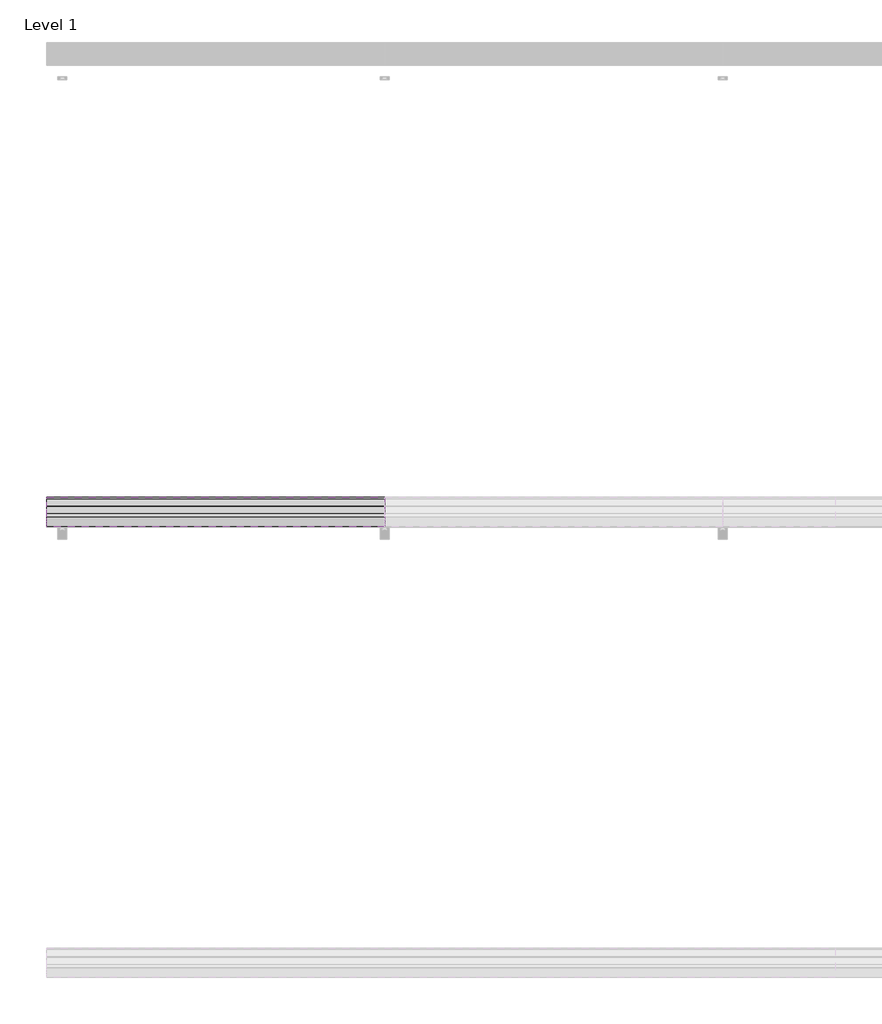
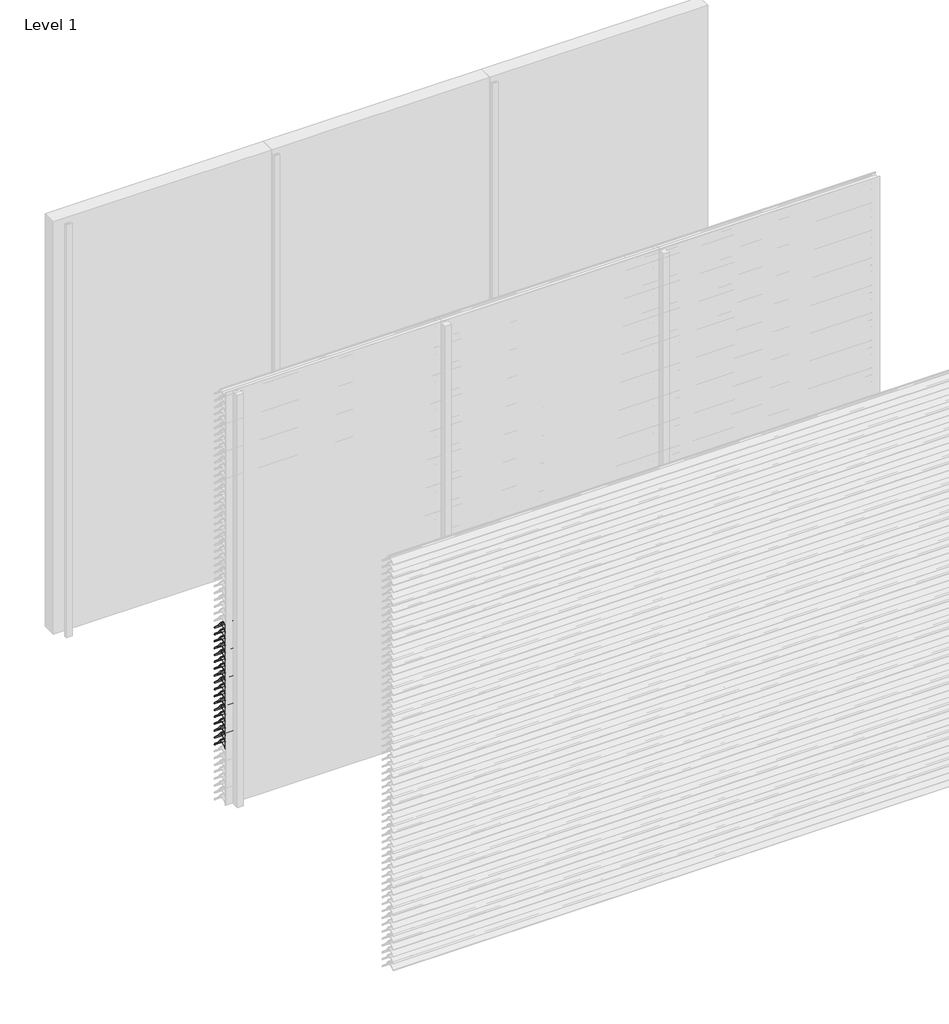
# One storey, part 77 of 173: 18 proxies.
"""IFC4 building model written with IfcOpenShell, lengths in millimetres."""

from ifc_helpers import new_model, si_unit, point, frame, frame_2d, origin, place, context, project, spatial, polyline, circle_curve, trimmed, segment, composite_curve, outline, extrude, element, save

model = new_model("IFC4")

# Units and contexts
model_context = context("Model", 3, world=origin())
ifc_project = project(units=[si_unit("LENGTHUNIT", "METRE", prefix="MILLI")], contexts=[model_context])

# Site, building, storey
site = spatial("IfcSite", under=ifc_project)
building = spatial("IfcBuilding", under=site)
storey = spatial("IfcBuildingStorey", under=building, Name="Level 1", Elevation=0.0)

# Proxies
placement = place(None, origin())
element("IfcBuildingElementProxy", 1, Name="Wall Sweeps", at=placement, inside=storey, context=model_context, shape_type="SweptSolid", body=[
    extrude(outline(composite_curve([segment(polyline([(-29998.0, 1259.1474905), (-29998.0, 1261.6227417)]), True, "CONTINUOUS"), segment(trimmed(circle_curve(frame_2d((-29951.2682172, 1216.2200208)), 65.1557103), [point((-29998.0, 1261.6227417))], [point((-29954.4014323, 1281.3003524))], False, "CARTESIAN"), True, "CONTINUOUS"), segment(polyline([(-29954.4014323, 1281.3003524), (-29934.8315836, 1281.3003524)]), True, "CONTINUOUS"), segment(trimmed(circle_curve(frame_2d((-29732.7329489, 1428.5533172)), 250.0545817), [point((-29934.8315836, 1281.3003524))], [point((-29941.4452143, 1290.8344583))], False, "CARTESIAN"), True, "CONTINUOUS"), segment(trimmed(circle_curve(frame_2d((-29953.2981792, 1285.1737835)), 13.1352966), [point((-29941.4452143, 1290.8344583))], [point((-29953.8171475, 1298.298824))], True, "CARTESIAN"), True, "CONTINUOUS"), segment(polyline([(-29953.8171475, 1298.298824), (-29953.8171475, 1300.0)]), True, "CONTINUOUS"), segment(trimmed(circle_curve(frame_2d((-29953.2981792, 1285.1737835)), 14.8352966), [point((-29953.8171475, 1300.0))], [point((-29939.9637661, 1291.6760487))], False, "CARTESIAN"), True, "CONTINUOUS"), segment(trimmed(circle_curve(frame_2d((-29732.7329489, 1428.5533172)), 248.3545817), [point((-29939.9637661, 1291.6760487))], [point((-29873.8787895, 1224.2059416))], True, "CARTESIAN"), True, "CONTINUOUS"), segment(trimmed(circle_curve(frame_2d((-29883.8147537, 1211.6649442)), 16.0), [point((-29873.8787895, 1224.2059416))], [point((-29867.8648347, 1210.4))], False, "CARTESIAN"), True, "CONTINUOUS"), segment(polyline([(-29867.8648347, 1210.4), (-29869.6712069, 1210.4)]), True, "CONTINUOUS"), segment(trimmed(circle_curve(frame_2d((-29883.8147537, 1211.6649442)), 14.2), [point((-29869.6712069, 1210.4))], [point((-29874.9518628, 1222.7594998))], True, "CARTESIAN"), True, "CONTINUOUS"), segment(trimmed(circle_curve(frame_2d((-29732.7329489, 1428.5533172)), 250.1545817), [point((-29874.9518628, 1222.7594998))], [point((-29933.7064024, 1279.6003524))], False, "CARTESIAN"), True, "CONTINUOUS"), segment(polyline([(-29933.7064024, 1279.6003524), (-29954.3602632, 1279.6003524)]), True, "CONTINUOUS"), segment(trimmed(circle_curve(frame_2d((-29951.2682172, 1216.2200208)), 63.4557103), [point((-29954.3602632, 1279.6003524))], [point((-29998.0, 1259.1474905))], True, "CARTESIAN"), True, "CONTINUOUS")], self_intersect=False)), frame((0.0, 0.0, 0.0), z_axis=(1.0, 0.0, 0.0), x_axis=(0.0, 1.0, 0.0)), (0.0, 0.0, 1.0), 1500.0),
])
element("IfcBuildingElementProxy", 2, Name="Wall Sweeps", at=placement, inside=storey, context=model_context, shape_type="SweptSolid", body=[
    extrude(outline(composite_curve([segment(polyline([(-29998.0, 1209.1474905), (-29998.0, 1211.6227417)]), True, "CONTINUOUS"), segment(trimmed(circle_curve(frame_2d((-29951.2682172, 1166.2200208)), 65.1557103), [point((-29998.0, 1211.6227417))], [point((-29954.4014323, 1231.3003524))], False, "CARTESIAN"), True, "CONTINUOUS"), segment(polyline([(-29954.4014323, 1231.3003524), (-29934.8315836, 1231.3003524)]), True, "CONTINUOUS"), segment(trimmed(circle_curve(frame_2d((-29732.7329489, 1378.5533172)), 250.0545817), [point((-29934.8315836, 1231.3003524))], [point((-29941.4452143, 1240.8344583))], False, "CARTESIAN"), True, "CONTINUOUS"), segment(trimmed(circle_curve(frame_2d((-29953.2981792, 1235.1737835)), 13.1352966), [point((-29941.4452143, 1240.8344583))], [point((-29953.8171475, 1248.298824))], True, "CARTESIAN"), True, "CONTINUOUS"), segment(polyline([(-29953.8171475, 1248.298824), (-29953.8171475, 1250.0)]), True, "CONTINUOUS"), segment(trimmed(circle_curve(frame_2d((-29953.2981792, 1235.1737835)), 14.8352966), [point((-29953.8171475, 1250.0))], [point((-29939.9637661, 1241.6760487))], False, "CARTESIAN"), True, "CONTINUOUS"), segment(trimmed(circle_curve(frame_2d((-29732.7329489, 1378.5533172)), 248.3545817), [point((-29939.9637661, 1241.6760487))], [point((-29873.8787895, 1174.2059416))], True, "CARTESIAN"), True, "CONTINUOUS"), segment(trimmed(circle_curve(frame_2d((-29883.8147537, 1161.6649442)), 16.0), [point((-29873.8787895, 1174.2059416))], [point((-29867.8648347, 1160.4))], False, "CARTESIAN"), True, "CONTINUOUS"), segment(polyline([(-29867.8648347, 1160.4), (-29869.6712069, 1160.4)]), True, "CONTINUOUS"), segment(trimmed(circle_curve(frame_2d((-29883.8147537, 1161.6649442)), 14.2), [point((-29869.6712069, 1160.4))], [point((-29874.9518628, 1172.7594998))], True, "CARTESIAN"), True, "CONTINUOUS"), segment(trimmed(circle_curve(frame_2d((-29732.7329489, 1378.5533172)), 250.1545817), [point((-29874.9518628, 1172.7594998))], [point((-29933.7064024, 1229.6003524))], False, "CARTESIAN"), True, "CONTINUOUS"), segment(polyline([(-29933.7064024, 1229.6003524), (-29954.3602632, 1229.6003524)]), True, "CONTINUOUS"), segment(trimmed(circle_curve(frame_2d((-29951.2682172, 1166.2200208)), 63.4557103), [point((-29954.3602632, 1229.6003524))], [point((-29998.0, 1209.1474905))], True, "CARTESIAN"), True, "CONTINUOUS")], self_intersect=False)), frame((0.0, 0.0, 0.0), z_axis=(1.0, 0.0, 0.0), x_axis=(0.0, 1.0, 0.0)), (0.0, 0.0, 1.0), 1500.0),
])
element("IfcBuildingElementProxy", 3, Name="Wall Sweeps", at=placement, inside=storey, context=model_context, shape_type="SweptSolid", body=[
    extrude(outline(composite_curve([segment(polyline([(-29998.0, 1159.1474905), (-29998.0, 1161.6227417)]), True, "CONTINUOUS"), segment(trimmed(circle_curve(frame_2d((-29951.2682172, 1116.2200208)), 65.1557103), [point((-29998.0, 1161.6227417))], [point((-29954.4014323, 1181.3003524))], False, "CARTESIAN"), True, "CONTINUOUS"), segment(polyline([(-29954.4014323, 1181.3003524), (-29934.8315836, 1181.3003524)]), True, "CONTINUOUS"), segment(trimmed(circle_curve(frame_2d((-29732.7329489, 1328.5533172)), 250.0545817), [point((-29934.8315836, 1181.3003524))], [point((-29941.4452143, 1190.8344583))], False, "CARTESIAN"), True, "CONTINUOUS"), segment(trimmed(circle_curve(frame_2d((-29953.2981792, 1185.1737835)), 13.1352966), [point((-29941.4452143, 1190.8344583))], [point((-29953.8171475, 1198.298824))], True, "CARTESIAN"), True, "CONTINUOUS"), segment(polyline([(-29953.8171475, 1198.298824), (-29953.8171475, 1200.0)]), True, "CONTINUOUS"), segment(trimmed(circle_curve(frame_2d((-29953.2981792, 1185.1737835)), 14.8352966), [point((-29953.8171475, 1200.0))], [point((-29939.9637661, 1191.6760487))], False, "CARTESIAN"), True, "CONTINUOUS"), segment(trimmed(circle_curve(frame_2d((-29732.7329489, 1328.5533172)), 248.3545817), [point((-29939.9637661, 1191.6760487))], [point((-29873.8787895, 1124.2059416))], True, "CARTESIAN"), True, "CONTINUOUS"), segment(trimmed(circle_curve(frame_2d((-29883.8147537, 1111.6649442)), 16.0), [point((-29873.8787895, 1124.2059416))], [point((-29867.8648347, 1110.4))], False, "CARTESIAN"), True, "CONTINUOUS"), segment(polyline([(-29867.8648347, 1110.4), (-29869.6712069, 1110.4)]), True, "CONTINUOUS"), segment(trimmed(circle_curve(frame_2d((-29883.8147537, 1111.6649442)), 14.2), [point((-29869.6712069, 1110.4))], [point((-29874.9518628, 1122.7594998))], True, "CARTESIAN"), True, "CONTINUOUS"), segment(trimmed(circle_curve(frame_2d((-29732.7329489, 1328.5533172)), 250.1545817), [point((-29874.9518628, 1122.7594998))], [point((-29933.7064024, 1179.6003524))], False, "CARTESIAN"), True, "CONTINUOUS"), segment(polyline([(-29933.7064024, 1179.6003524), (-29954.3602632, 1179.6003524)]), True, "CONTINUOUS"), segment(trimmed(circle_curve(frame_2d((-29951.2682172, 1116.2200208)), 63.4557103), [point((-29954.3602632, 1179.6003524))], [point((-29998.0, 1159.1474905))], True, "CARTESIAN"), True, "CONTINUOUS")], self_intersect=False)), frame((0.0, 0.0, 0.0), z_axis=(1.0, 0.0, 0.0), x_axis=(0.0, 1.0, 0.0)), (0.0, 0.0, 1.0), 1500.0),
])
element("IfcBuildingElementProxy", 4, Name="Wall Sweeps", at=placement, inside=storey, context=model_context, shape_type="SweptSolid", body=[
    extrude(outline(composite_curve([segment(polyline([(-29998.0, 1109.1474905), (-29998.0, 1111.6227417)]), True, "CONTINUOUS"), segment(trimmed(circle_curve(frame_2d((-29951.2682172, 1066.2200208)), 65.1557103), [point((-29998.0, 1111.6227417))], [point((-29954.4014323, 1131.3003524))], False, "CARTESIAN"), True, "CONTINUOUS"), segment(polyline([(-29954.4014323, 1131.3003524), (-29934.8315836, 1131.3003524)]), True, "CONTINUOUS"), segment(trimmed(circle_curve(frame_2d((-29732.7329489, 1278.5533172)), 250.0545817), [point((-29934.8315836, 1131.3003524))], [point((-29941.4452143, 1140.8344583))], False, "CARTESIAN"), True, "CONTINUOUS"), segment(trimmed(circle_curve(frame_2d((-29953.2981792, 1135.1737835)), 13.1352966), [point((-29941.4452143, 1140.8344583))], [point((-29953.8171475, 1148.298824))], True, "CARTESIAN"), True, "CONTINUOUS"), segment(polyline([(-29953.8171475, 1148.298824), (-29953.8171475, 1150.0)]), True, "CONTINUOUS"), segment(trimmed(circle_curve(frame_2d((-29953.2981792, 1135.1737835)), 14.8352966), [point((-29953.8171475, 1150.0))], [point((-29939.9637661, 1141.6760487))], False, "CARTESIAN"), True, "CONTINUOUS"), segment(trimmed(circle_curve(frame_2d((-29732.7329489, 1278.5533172)), 248.3545817), [point((-29939.9637661, 1141.6760487))], [point((-29873.8787895, 1074.2059416))], True, "CARTESIAN"), True, "CONTINUOUS"), segment(trimmed(circle_curve(frame_2d((-29883.8147537, 1061.6649442)), 16.0), [point((-29873.8787895, 1074.2059416))], [point((-29867.8648347, 1060.4))], False, "CARTESIAN"), True, "CONTINUOUS"), segment(polyline([(-29867.8648347, 1060.4), (-29869.6712069, 1060.4)]), True, "CONTINUOUS"), segment(trimmed(circle_curve(frame_2d((-29883.8147537, 1061.6649442)), 14.2), [point((-29869.6712069, 1060.4))], [point((-29874.9518628, 1072.7594998))], True, "CARTESIAN"), True, "CONTINUOUS"), segment(trimmed(circle_curve(frame_2d((-29732.7329489, 1278.5533172)), 250.1545817), [point((-29874.9518628, 1072.7594998))], [point((-29933.7064024, 1129.6003524))], False, "CARTESIAN"), True, "CONTINUOUS"), segment(polyline([(-29933.7064024, 1129.6003524), (-29954.3602632, 1129.6003524)]), True, "CONTINUOUS"), segment(trimmed(circle_curve(frame_2d((-29951.2682172, 1066.2200208)), 63.4557103), [point((-29954.3602632, 1129.6003524))], [point((-29998.0, 1109.1474905))], True, "CARTESIAN"), True, "CONTINUOUS")], self_intersect=False)), frame((0.0, 0.0, 0.0), z_axis=(1.0, 0.0, 0.0), x_axis=(0.0, 1.0, 0.0)), (0.0, 0.0, 1.0), 1500.0),
])
element("IfcBuildingElementProxy", 5, Name="Wall Sweeps", at=placement, inside=storey, context=model_context, shape_type="SweptSolid", body=[
    extrude(outline(composite_curve([segment(polyline([(-29998.0, 1059.1474905), (-29998.0, 1061.6227417)]), True, "CONTINUOUS"), segment(trimmed(circle_curve(frame_2d((-29951.2682172, 1016.2200208)), 65.1557103), [point((-29998.0, 1061.6227417))], [point((-29954.4014323, 1081.3003524))], False, "CARTESIAN"), True, "CONTINUOUS"), segment(polyline([(-29954.4014323, 1081.3003524), (-29934.8315836, 1081.3003524)]), True, "CONTINUOUS"), segment(trimmed(circle_curve(frame_2d((-29732.7329489, 1228.5533172)), 250.0545817), [point((-29934.8315836, 1081.3003524))], [point((-29941.4452143, 1090.8344583))], False, "CARTESIAN"), True, "CONTINUOUS"), segment(trimmed(circle_curve(frame_2d((-29953.2981792, 1085.1737835)), 13.1352966), [point((-29941.4452143, 1090.8344583))], [point((-29953.8171475, 1098.298824))], True, "CARTESIAN"), True, "CONTINUOUS"), segment(polyline([(-29953.8171475, 1098.298824), (-29953.8171475, 1100.0)]), True, "CONTINUOUS"), segment(trimmed(circle_curve(frame_2d((-29953.2981792, 1085.1737835)), 14.8352966), [point((-29953.8171475, 1100.0))], [point((-29939.9637661, 1091.6760487))], False, "CARTESIAN"), True, "CONTINUOUS"), segment(trimmed(circle_curve(frame_2d((-29732.7329489, 1228.5533172)), 248.3545817), [point((-29939.9637661, 1091.6760487))], [point((-29873.8787895, 1024.2059416))], True, "CARTESIAN"), True, "CONTINUOUS"), segment(trimmed(circle_curve(frame_2d((-29883.8147537, 1011.6649442)), 16.0), [point((-29873.8787895, 1024.2059416))], [point((-29867.8648347, 1010.4))], False, "CARTESIAN"), True, "CONTINUOUS"), segment(polyline([(-29867.8648347, 1010.4), (-29869.6712069, 1010.4)]), True, "CONTINUOUS"), segment(trimmed(circle_curve(frame_2d((-29883.8147537, 1011.6649442)), 14.2), [point((-29869.6712069, 1010.4))], [point((-29874.9518628, 1022.7594998))], True, "CARTESIAN"), True, "CONTINUOUS"), segment(trimmed(circle_curve(frame_2d((-29732.7329489, 1228.5533172)), 250.1545817), [point((-29874.9518628, 1022.7594998))], [point((-29933.7064024, 1079.6003524))], False, "CARTESIAN"), True, "CONTINUOUS"), segment(polyline([(-29933.7064024, 1079.6003524), (-29954.3602632, 1079.6003524)]), True, "CONTINUOUS"), segment(trimmed(circle_curve(frame_2d((-29951.2682172, 1016.2200208)), 63.4557103), [point((-29954.3602632, 1079.6003524))], [point((-29998.0, 1059.1474905))], True, "CARTESIAN"), True, "CONTINUOUS")], self_intersect=False)), frame((0.0, 0.0, 0.0), z_axis=(1.0, 0.0, 0.0), x_axis=(0.0, 1.0, 0.0)), (0.0, 0.0, 1.0), 1500.0),
])
element("IfcBuildingElementProxy", 6, Name="Wall Sweeps", at=placement, inside=storey, context=model_context, shape_type="SweptSolid", body=[
    extrude(outline(composite_curve([segment(polyline([(-29998.0, 1009.1474905), (-29998.0, 1011.6227417)]), True, "CONTINUOUS"), segment(trimmed(circle_curve(frame_2d((-29951.2682172, 966.2200208)), 65.1557103), [point((-29998.0, 1011.6227417))], [point((-29954.4014323, 1031.3003524))], False, "CARTESIAN"), True, "CONTINUOUS"), segment(polyline([(-29954.4014323, 1031.3003524), (-29934.8315836, 1031.3003524)]), True, "CONTINUOUS"), segment(trimmed(circle_curve(frame_2d((-29732.7329489, 1178.5533172)), 250.0545817), [point((-29934.8315836, 1031.3003524))], [point((-29941.4452143, 1040.8344583))], False, "CARTESIAN"), True, "CONTINUOUS"), segment(trimmed(circle_curve(frame_2d((-29953.2981792, 1035.1737835)), 13.1352966), [point((-29941.4452143, 1040.8344583))], [point((-29953.8171475, 1048.298824))], True, "CARTESIAN"), True, "CONTINUOUS"), segment(polyline([(-29953.8171475, 1048.298824), (-29953.8171475, 1050.0)]), True, "CONTINUOUS"), segment(trimmed(circle_curve(frame_2d((-29953.2981792, 1035.1737835)), 14.8352966), [point((-29953.8171475, 1050.0))], [point((-29939.9637661, 1041.6760487))], False, "CARTESIAN"), True, "CONTINUOUS"), segment(trimmed(circle_curve(frame_2d((-29732.7329489, 1178.5533172)), 248.3545817), [point((-29939.9637661, 1041.6760487))], [point((-29873.8787895, 974.2059416))], True, "CARTESIAN"), True, "CONTINUOUS"), segment(trimmed(circle_curve(frame_2d((-29883.8147537, 961.6649442)), 16.0), [point((-29873.8787895, 974.2059416))], [point((-29867.8648347, 960.4))], False, "CARTESIAN"), True, "CONTINUOUS"), segment(polyline([(-29867.8648347, 960.4), (-29869.6712069, 960.4)]), True, "CONTINUOUS"), segment(trimmed(circle_curve(frame_2d((-29883.8147537, 961.6649442)), 14.2), [point((-29869.6712069, 960.4))], [point((-29874.9518628, 972.7594998))], True, "CARTESIAN"), True, "CONTINUOUS"), segment(trimmed(circle_curve(frame_2d((-29732.7329489, 1178.5533172)), 250.1545817), [point((-29874.9518628, 972.7594998))], [point((-29933.7064024, 1029.6003524))], False, "CARTESIAN"), True, "CONTINUOUS"), segment(polyline([(-29933.7064024, 1029.6003524), (-29954.3602632, 1029.6003524)]), True, "CONTINUOUS"), segment(trimmed(circle_curve(frame_2d((-29951.2682172, 966.2200208)), 63.4557103), [point((-29954.3602632, 1029.6003524))], [point((-29998.0, 1009.1474905))], True, "CARTESIAN"), True, "CONTINUOUS")], self_intersect=False)), frame((0.0, 0.0, 0.0), z_axis=(1.0, 0.0, 0.0), x_axis=(0.0, 1.0, 0.0)), (0.0, 0.0, 1.0), 1500.0),
])
element("IfcBuildingElementProxy", 7, Name="Wall Sweeps", at=placement, inside=storey, context=model_context, shape_type="SweptSolid", body=[
    extrude(outline(composite_curve([segment(polyline([(-29998.0, 959.1474905), (-29998.0, 961.6227417)]), True, "CONTINUOUS"), segment(trimmed(circle_curve(frame_2d((-29951.2682172, 916.2200208)), 65.1557103), [point((-29998.0, 961.6227417))], [point((-29954.4014323, 981.3003524))], False, "CARTESIAN"), True, "CONTINUOUS"), segment(polyline([(-29954.4014323, 981.3003524), (-29934.8315836, 981.3003524)]), True, "CONTINUOUS"), segment(trimmed(circle_curve(frame_2d((-29732.7329489, 1128.5533172)), 250.0545817), [point((-29934.8315836, 981.3003524))], [point((-29941.4452143, 990.8344583))], False, "CARTESIAN"), True, "CONTINUOUS"), segment(trimmed(circle_curve(frame_2d((-29953.2981792, 985.1737835)), 13.1352966), [point((-29941.4452143, 990.8344583))], [point((-29953.8171475, 998.298824))], True, "CARTESIAN"), True, "CONTINUOUS"), segment(polyline([(-29953.8171475, 998.298824), (-29953.8171475, 1000.0)]), True, "CONTINUOUS"), segment(trimmed(circle_curve(frame_2d((-29953.2981792, 985.1737835)), 14.8352966), [point((-29953.8171475, 1000.0))], [point((-29939.9637661, 991.6760487))], False, "CARTESIAN"), True, "CONTINUOUS"), segment(trimmed(circle_curve(frame_2d((-29732.7329489, 1128.5533172)), 248.3545817), [point((-29939.9637661, 991.6760487))], [point((-29873.8787895, 924.2059416))], True, "CARTESIAN"), True, "CONTINUOUS"), segment(trimmed(circle_curve(frame_2d((-29883.8147537, 911.6649442)), 16.0), [point((-29873.8787895, 924.2059416))], [point((-29867.8648347, 910.4))], False, "CARTESIAN"), True, "CONTINUOUS"), segment(polyline([(-29867.8648347, 910.4), (-29869.6712069, 910.4)]), True, "CONTINUOUS"), segment(trimmed(circle_curve(frame_2d((-29883.8147537, 911.6649442)), 14.2), [point((-29869.6712069, 910.4))], [point((-29874.9518628, 922.7594998))], True, "CARTESIAN"), True, "CONTINUOUS"), segment(trimmed(circle_curve(frame_2d((-29732.7329489, 1128.5533172)), 250.1545817), [point((-29874.9518628, 922.7594998))], [point((-29933.7064024, 979.6003524))], False, "CARTESIAN"), True, "CONTINUOUS"), segment(polyline([(-29933.7064024, 979.6003524), (-29954.3602632, 979.6003524)]), True, "CONTINUOUS"), segment(trimmed(circle_curve(frame_2d((-29951.2682172, 916.2200208)), 63.4557103), [point((-29954.3602632, 979.6003524))], [point((-29998.0, 959.1474905))], True, "CARTESIAN"), True, "CONTINUOUS")], self_intersect=False)), frame((0.0, 0.0, 0.0), z_axis=(1.0, 0.0, 0.0), x_axis=(0.0, 1.0, 0.0)), (0.0, 0.0, 1.0), 1500.0),
])
element("IfcBuildingElementProxy", 8, Name="Wall Sweeps", at=placement, inside=storey, context=model_context, shape_type="SweptSolid", body=[
    extrude(outline(composite_curve([segment(polyline([(-29998.0, 909.1474905), (-29998.0, 911.6227417)]), True, "CONTINUOUS"), segment(trimmed(circle_curve(frame_2d((-29951.2682172, 866.2200208)), 65.1557103), [point((-29998.0, 911.6227417))], [point((-29954.4014323, 931.3003524))], False, "CARTESIAN"), True, "CONTINUOUS"), segment(polyline([(-29954.4014323, 931.3003524), (-29934.8315836, 931.3003524)]), True, "CONTINUOUS"), segment(trimmed(circle_curve(frame_2d((-29732.7329489, 1078.5533172)), 250.0545817), [point((-29934.8315836, 931.3003524))], [point((-29941.4452143, 940.8344583))], False, "CARTESIAN"), True, "CONTINUOUS"), segment(trimmed(circle_curve(frame_2d((-29953.2981792, 935.1737835)), 13.1352966), [point((-29941.4452143, 940.8344583))], [point((-29953.8171475, 948.298824))], True, "CARTESIAN"), True, "CONTINUOUS"), segment(polyline([(-29953.8171475, 948.298824), (-29953.8171475, 950.0)]), True, "CONTINUOUS"), segment(trimmed(circle_curve(frame_2d((-29953.2981792, 935.1737835)), 14.8352966), [point((-29953.8171475, 950.0))], [point((-29939.9637661, 941.6760487))], False, "CARTESIAN"), True, "CONTINUOUS"), segment(trimmed(circle_curve(frame_2d((-29732.7329489, 1078.5533172)), 248.3545817), [point((-29939.9637661, 941.6760487))], [point((-29873.8787895, 874.2059416))], True, "CARTESIAN"), True, "CONTINUOUS"), segment(trimmed(circle_curve(frame_2d((-29883.8147537, 861.6649442)), 16.0), [point((-29873.8787895, 874.2059416))], [point((-29867.8648347, 860.4))], False, "CARTESIAN"), True, "CONTINUOUS"), segment(polyline([(-29867.8648347, 860.4), (-29869.6712069, 860.4)]), True, "CONTINUOUS"), segment(trimmed(circle_curve(frame_2d((-29883.8147537, 861.6649442)), 14.2), [point((-29869.6712069, 860.4))], [point((-29874.9518628, 872.7594998))], True, "CARTESIAN"), True, "CONTINUOUS"), segment(trimmed(circle_curve(frame_2d((-29732.7329489, 1078.5533172)), 250.1545817), [point((-29874.9518628, 872.7594998))], [point((-29933.7064024, 929.6003524))], False, "CARTESIAN"), True, "CONTINUOUS"), segment(polyline([(-29933.7064024, 929.6003524), (-29954.3602632, 929.6003524)]), True, "CONTINUOUS"), segment(trimmed(circle_curve(frame_2d((-29951.2682172, 866.2200208)), 63.4557103), [point((-29954.3602632, 929.6003524))], [point((-29998.0, 909.1474905))], True, "CARTESIAN"), True, "CONTINUOUS")], self_intersect=False)), frame((0.0, 0.0, 0.0), z_axis=(1.0, 0.0, 0.0), x_axis=(0.0, 1.0, 0.0)), (0.0, 0.0, 1.0), 1500.0),
])
element("IfcBuildingElementProxy", 9, Name="Wall Sweeps", at=placement, inside=storey, context=model_context, shape_type="SweptSolid", body=[
    extrude(outline(composite_curve([segment(polyline([(-29998.0, 859.1474905), (-29998.0, 861.6227417)]), True, "CONTINUOUS"), segment(trimmed(circle_curve(frame_2d((-29951.2682172, 816.2200208)), 65.1557103), [point((-29998.0, 861.6227417))], [point((-29954.4014323, 881.3003524))], False, "CARTESIAN"), True, "CONTINUOUS"), segment(polyline([(-29954.4014323, 881.3003524), (-29934.8315836, 881.3003524)]), True, "CONTINUOUS"), segment(trimmed(circle_curve(frame_2d((-29732.7329489, 1028.5533172)), 250.0545817), [point((-29934.8315836, 881.3003524))], [point((-29941.4452143, 890.8344583))], False, "CARTESIAN"), True, "CONTINUOUS"), segment(trimmed(circle_curve(frame_2d((-29953.2981792, 885.1737835)), 13.1352966), [point((-29941.4452143, 890.8344583))], [point((-29953.8171475, 898.298824))], True, "CARTESIAN"), True, "CONTINUOUS"), segment(polyline([(-29953.8171475, 898.298824), (-29953.8171475, 900.0)]), True, "CONTINUOUS"), segment(trimmed(circle_curve(frame_2d((-29953.2981792, 885.1737835)), 14.8352966), [point((-29953.8171475, 900.0))], [point((-29939.9637661, 891.6760487))], False, "CARTESIAN"), True, "CONTINUOUS"), segment(trimmed(circle_curve(frame_2d((-29732.7329489, 1028.5533172)), 248.3545817), [point((-29939.9637661, 891.6760487))], [point((-29873.8787895, 824.2059416))], True, "CARTESIAN"), True, "CONTINUOUS"), segment(trimmed(circle_curve(frame_2d((-29883.8147537, 811.6649442)), 16.0), [point((-29873.8787895, 824.2059416))], [point((-29867.8648347, 810.4))], False, "CARTESIAN"), True, "CONTINUOUS"), segment(polyline([(-29867.8648347, 810.4), (-29869.6712069, 810.4)]), True, "CONTINUOUS"), segment(trimmed(circle_curve(frame_2d((-29883.8147537, 811.6649442)), 14.2), [point((-29869.6712069, 810.4))], [point((-29874.9518628, 822.7594998))], True, "CARTESIAN"), True, "CONTINUOUS"), segment(trimmed(circle_curve(frame_2d((-29732.7329489, 1028.5533172)), 250.1545817), [point((-29874.9518628, 822.7594998))], [point((-29933.7064024, 879.6003524))], False, "CARTESIAN"), True, "CONTINUOUS"), segment(polyline([(-29933.7064024, 879.6003524), (-29954.3602632, 879.6003524)]), True, "CONTINUOUS"), segment(trimmed(circle_curve(frame_2d((-29951.2682172, 816.2200208)), 63.4557103), [point((-29954.3602632, 879.6003524))], [point((-29998.0, 859.1474905))], True, "CARTESIAN"), True, "CONTINUOUS")], self_intersect=False)), frame((0.0, 0.0, 0.0), z_axis=(1.0, 0.0, 0.0), x_axis=(0.0, 1.0, 0.0)), (0.0, 0.0, 1.0), 1500.0),
])
element("IfcBuildingElementProxy", 10, Name="Wall Sweeps", at=placement, inside=storey, context=model_context, shape_type="SweptSolid", body=[
    extrude(outline(composite_curve([segment(polyline([(-29998.0, 809.1474905), (-29998.0, 811.6227417)]), True, "CONTINUOUS"), segment(trimmed(circle_curve(frame_2d((-29951.2682172, 766.2200208)), 65.1557103), [point((-29998.0, 811.6227417))], [point((-29954.4014323, 831.3003524))], False, "CARTESIAN"), True, "CONTINUOUS"), segment(polyline([(-29954.4014323, 831.3003524), (-29934.8315836, 831.3003524)]), True, "CONTINUOUS"), segment(trimmed(circle_curve(frame_2d((-29732.7329489, 978.5533172)), 250.0545817), [point((-29934.8315836, 831.3003524))], [point((-29941.4452143, 840.8344583))], False, "CARTESIAN"), True, "CONTINUOUS"), segment(trimmed(circle_curve(frame_2d((-29953.2981792, 835.1737835)), 13.1352966), [point((-29941.4452143, 840.8344583))], [point((-29953.8171475, 848.298824))], True, "CARTESIAN"), True, "CONTINUOUS"), segment(polyline([(-29953.8171475, 848.298824), (-29953.8171475, 850.0)]), True, "CONTINUOUS"), segment(trimmed(circle_curve(frame_2d((-29953.2981792, 835.1737835)), 14.8352966), [point((-29953.8171475, 850.0))], [point((-29939.9637661, 841.6760487))], False, "CARTESIAN"), True, "CONTINUOUS"), segment(trimmed(circle_curve(frame_2d((-29732.7329489, 978.5533172)), 248.3545817), [point((-29939.9637661, 841.6760487))], [point((-29873.8787895, 774.2059416))], True, "CARTESIAN"), True, "CONTINUOUS"), segment(trimmed(circle_curve(frame_2d((-29883.8147537, 761.6649442)), 16.0), [point((-29873.8787895, 774.2059416))], [point((-29867.8648347, 760.4))], False, "CARTESIAN"), True, "CONTINUOUS"), segment(polyline([(-29867.8648347, 760.4), (-29869.6712069, 760.4)]), True, "CONTINUOUS"), segment(trimmed(circle_curve(frame_2d((-29883.8147537, 761.6649442)), 14.2), [point((-29869.6712069, 760.4))], [point((-29874.9518628, 772.7594998))], True, "CARTESIAN"), True, "CONTINUOUS"), segment(trimmed(circle_curve(frame_2d((-29732.7329489, 978.5533172)), 250.1545817), [point((-29874.9518628, 772.7594998))], [point((-29933.7064024, 829.6003524))], False, "CARTESIAN"), True, "CONTINUOUS"), segment(polyline([(-29933.7064024, 829.6003524), (-29954.3602632, 829.6003524)]), True, "CONTINUOUS"), segment(trimmed(circle_curve(frame_2d((-29951.2682172, 766.2200208)), 63.4557103), [point((-29954.3602632, 829.6003524))], [point((-29998.0, 809.1474905))], True, "CARTESIAN"), True, "CONTINUOUS")], self_intersect=False)), frame((0.0, 0.0, 0.0), z_axis=(1.0, 0.0, 0.0), x_axis=(0.0, 1.0, 0.0)), (0.0, 0.0, 1.0), 1500.0),
])
element("IfcBuildingElementProxy", 11, Name="Wall Sweeps", at=placement, inside=storey, context=model_context, shape_type="SweptSolid", body=[
    extrude(outline(composite_curve([segment(polyline([(-29998.0, 759.1474905), (-29998.0, 761.6227417)]), True, "CONTINUOUS"), segment(trimmed(circle_curve(frame_2d((-29951.2682172, 716.2200208)), 65.1557103), [point((-29998.0, 761.6227417))], [point((-29954.4014323, 781.3003524))], False, "CARTESIAN"), True, "CONTINUOUS"), segment(polyline([(-29954.4014323, 781.3003524), (-29934.8315836, 781.3003524)]), True, "CONTINUOUS"), segment(trimmed(circle_curve(frame_2d((-29732.7329489, 928.5533172)), 250.0545817), [point((-29934.8315836, 781.3003524))], [point((-29941.4452143, 790.8344583))], False, "CARTESIAN"), True, "CONTINUOUS"), segment(trimmed(circle_curve(frame_2d((-29953.2981792, 785.1737835)), 13.1352966), [point((-29941.4452143, 790.8344583))], [point((-29953.8171475, 798.298824))], True, "CARTESIAN"), True, "CONTINUOUS"), segment(polyline([(-29953.8171475, 798.298824), (-29953.8171475, 800.0)]), True, "CONTINUOUS"), segment(trimmed(circle_curve(frame_2d((-29953.2981792, 785.1737835)), 14.8352966), [point((-29953.8171475, 800.0))], [point((-29939.9637661, 791.6760487))], False, "CARTESIAN"), True, "CONTINUOUS"), segment(trimmed(circle_curve(frame_2d((-29732.7329489, 928.5533172)), 248.3545817), [point((-29939.9637661, 791.6760487))], [point((-29873.8787895, 724.2059416))], True, "CARTESIAN"), True, "CONTINUOUS"), segment(trimmed(circle_curve(frame_2d((-29883.8147537, 711.6649442)), 16.0), [point((-29873.8787895, 724.2059416))], [point((-29867.8648347, 710.4))], False, "CARTESIAN"), True, "CONTINUOUS"), segment(polyline([(-29867.8648347, 710.4), (-29869.6712069, 710.4)]), True, "CONTINUOUS"), segment(trimmed(circle_curve(frame_2d((-29883.8147537, 711.6649442)), 14.2), [point((-29869.6712069, 710.4))], [point((-29874.9518628, 722.7594998))], True, "CARTESIAN"), True, "CONTINUOUS"), segment(trimmed(circle_curve(frame_2d((-29732.7329489, 928.5533172)), 250.1545817), [point((-29874.9518628, 722.7594998))], [point((-29933.7064024, 779.6003524))], False, "CARTESIAN"), True, "CONTINUOUS"), segment(polyline([(-29933.7064024, 779.6003524), (-29954.3602632, 779.6003524)]), True, "CONTINUOUS"), segment(trimmed(circle_curve(frame_2d((-29951.2682172, 716.2200208)), 63.4557103), [point((-29954.3602632, 779.6003524))], [point((-29998.0, 759.1474905))], True, "CARTESIAN"), True, "CONTINUOUS")], self_intersect=False)), frame((0.0, 0.0, 0.0), z_axis=(1.0, 0.0, 0.0), x_axis=(0.0, 1.0, 0.0)), (0.0, 0.0, 1.0), 1500.0),
])
element("IfcBuildingElementProxy", 12, Name="Wall Sweeps", at=placement, inside=storey, context=model_context, shape_type="SweptSolid", body=[
    extrude(outline(composite_curve([segment(polyline([(-29998.0, 709.1474905), (-29998.0, 711.6227417)]), True, "CONTINUOUS"), segment(trimmed(circle_curve(frame_2d((-29951.2682172, 666.2200208)), 65.1557103), [point((-29998.0, 711.6227417))], [point((-29954.4014323, 731.3003524))], False, "CARTESIAN"), True, "CONTINUOUS"), segment(polyline([(-29954.4014323, 731.3003524), (-29934.8315836, 731.3003524)]), True, "CONTINUOUS"), segment(trimmed(circle_curve(frame_2d((-29732.7329489, 878.5533172)), 250.0545817), [point((-29934.8315836, 731.3003524))], [point((-29941.4452143, 740.8344583))], False, "CARTESIAN"), True, "CONTINUOUS"), segment(trimmed(circle_curve(frame_2d((-29953.2981792, 735.1737835)), 13.1352966), [point((-29941.4452143, 740.8344583))], [point((-29953.8171475, 748.298824))], True, "CARTESIAN"), True, "CONTINUOUS"), segment(polyline([(-29953.8171475, 748.298824), (-29953.8171475, 750.0)]), True, "CONTINUOUS"), segment(trimmed(circle_curve(frame_2d((-29953.2981792, 735.1737835)), 14.8352966), [point((-29953.8171475, 750.0))], [point((-29939.9637661, 741.6760487))], False, "CARTESIAN"), True, "CONTINUOUS"), segment(trimmed(circle_curve(frame_2d((-29732.7329489, 878.5533172)), 248.3545817), [point((-29939.9637661, 741.6760487))], [point((-29873.8787895, 674.2059416))], True, "CARTESIAN"), True, "CONTINUOUS"), segment(trimmed(circle_curve(frame_2d((-29883.8147537, 661.6649442)), 16.0), [point((-29873.8787895, 674.2059416))], [point((-29867.8648347, 660.4))], False, "CARTESIAN"), True, "CONTINUOUS"), segment(polyline([(-29867.8648347, 660.4), (-29869.6712069, 660.4)]), True, "CONTINUOUS"), segment(trimmed(circle_curve(frame_2d((-29883.8147537, 661.6649442)), 14.2), [point((-29869.6712069, 660.4))], [point((-29874.9518628, 672.7594998))], True, "CARTESIAN"), True, "CONTINUOUS"), segment(trimmed(circle_curve(frame_2d((-29732.7329489, 878.5533172)), 250.1545817), [point((-29874.9518628, 672.7594998))], [point((-29933.7064024, 729.6003524))], False, "CARTESIAN"), True, "CONTINUOUS"), segment(polyline([(-29933.7064024, 729.6003524), (-29954.3602632, 729.6003524)]), True, "CONTINUOUS"), segment(trimmed(circle_curve(frame_2d((-29951.2682172, 666.2200208)), 63.4557103), [point((-29954.3602632, 729.6003524))], [point((-29998.0, 709.1474905))], True, "CARTESIAN"), True, "CONTINUOUS")], self_intersect=False)), frame((0.0, 0.0, 0.0), z_axis=(1.0, 0.0, 0.0), x_axis=(0.0, 1.0, 0.0)), (0.0, 0.0, 1.0), 1500.0),
])
element("IfcBuildingElementProxy", 13, Name="Wall Sweeps", at=placement, inside=storey, context=model_context, shape_type="SweptSolid", body=[
    extrude(outline(composite_curve([segment(polyline([(-29998.0, 659.1474905), (-29998.0, 661.6227417)]), True, "CONTINUOUS"), segment(trimmed(circle_curve(frame_2d((-29951.2682172, 616.2200208)), 65.1557103), [point((-29998.0, 661.6227417))], [point((-29954.4014323, 681.3003524))], False, "CARTESIAN"), True, "CONTINUOUS"), segment(polyline([(-29954.4014323, 681.3003524), (-29934.8315836, 681.3003524)]), True, "CONTINUOUS"), segment(trimmed(circle_curve(frame_2d((-29732.7329489, 828.5533172)), 250.0545817), [point((-29934.8315836, 681.3003524))], [point((-29941.4452143, 690.8344583))], False, "CARTESIAN"), True, "CONTINUOUS"), segment(trimmed(circle_curve(frame_2d((-29953.2981792, 685.1737835)), 13.1352966), [point((-29941.4452143, 690.8344583))], [point((-29953.8171475, 698.298824))], True, "CARTESIAN"), True, "CONTINUOUS"), segment(polyline([(-29953.8171475, 698.298824), (-29953.8171475, 700.0)]), True, "CONTINUOUS"), segment(trimmed(circle_curve(frame_2d((-29953.2981792, 685.1737835)), 14.8352966), [point((-29953.8171475, 700.0))], [point((-29939.9637661, 691.6760487))], False, "CARTESIAN"), True, "CONTINUOUS"), segment(trimmed(circle_curve(frame_2d((-29732.7329489, 828.5533172)), 248.3545817), [point((-29939.9637661, 691.6760487))], [point((-29873.8787895, 624.2059416))], True, "CARTESIAN"), True, "CONTINUOUS"), segment(trimmed(circle_curve(frame_2d((-29883.8147537, 611.6649442)), 16.0), [point((-29873.8787895, 624.2059416))], [point((-29867.8648347, 610.4))], False, "CARTESIAN"), True, "CONTINUOUS"), segment(polyline([(-29867.8648347, 610.4), (-29869.6712069, 610.4)]), True, "CONTINUOUS"), segment(trimmed(circle_curve(frame_2d((-29883.8147537, 611.6649442)), 14.2), [point((-29869.6712069, 610.4))], [point((-29874.9518628, 622.7594998))], True, "CARTESIAN"), True, "CONTINUOUS"), segment(trimmed(circle_curve(frame_2d((-29732.7329489, 828.5533172)), 250.1545817), [point((-29874.9518628, 622.7594998))], [point((-29933.7064024, 679.6003524))], False, "CARTESIAN"), True, "CONTINUOUS"), segment(polyline([(-29933.7064024, 679.6003524), (-29954.3602632, 679.6003524)]), True, "CONTINUOUS"), segment(trimmed(circle_curve(frame_2d((-29951.2682172, 616.2200208)), 63.4557103), [point((-29954.3602632, 679.6003524))], [point((-29998.0, 659.1474905))], True, "CARTESIAN"), True, "CONTINUOUS")], self_intersect=False)), frame((0.0, 0.0, 0.0), z_axis=(1.0, 0.0, 0.0), x_axis=(0.0, 1.0, 0.0)), (0.0, 0.0, 1.0), 1500.0),
])
element("IfcBuildingElementProxy", 14, Name="Wall Sweeps", at=placement, inside=storey, context=model_context, shape_type="SweptSolid", body=[
    extrude(outline(composite_curve([segment(polyline([(-29998.0, 609.1474905), (-29998.0, 611.6227417)]), True, "CONTINUOUS"), segment(trimmed(circle_curve(frame_2d((-29951.2682172, 566.2200208)), 65.1557103), [point((-29998.0, 611.6227417))], [point((-29954.4014323, 631.3003524))], False, "CARTESIAN"), True, "CONTINUOUS"), segment(polyline([(-29954.4014323, 631.3003524), (-29934.8315836, 631.3003524)]), True, "CONTINUOUS"), segment(trimmed(circle_curve(frame_2d((-29732.7329489, 778.5533172)), 250.0545817), [point((-29934.8315836, 631.3003524))], [point((-29941.4452143, 640.8344583))], False, "CARTESIAN"), True, "CONTINUOUS"), segment(trimmed(circle_curve(frame_2d((-29953.2981792, 635.1737835)), 13.1352966), [point((-29941.4452143, 640.8344583))], [point((-29953.8171475, 648.298824))], True, "CARTESIAN"), True, "CONTINUOUS"), segment(polyline([(-29953.8171475, 648.298824), (-29953.8171475, 650.0)]), True, "CONTINUOUS"), segment(trimmed(circle_curve(frame_2d((-29953.2981792, 635.1737835)), 14.8352966), [point((-29953.8171475, 650.0))], [point((-29939.9637661, 641.6760487))], False, "CARTESIAN"), True, "CONTINUOUS"), segment(trimmed(circle_curve(frame_2d((-29732.7329489, 778.5533172)), 248.3545817), [point((-29939.9637661, 641.6760487))], [point((-29873.8787895, 574.2059416))], True, "CARTESIAN"), True, "CONTINUOUS"), segment(trimmed(circle_curve(frame_2d((-29883.8147537, 561.6649442)), 16.0), [point((-29873.8787895, 574.2059416))], [point((-29867.8648347, 560.4))], False, "CARTESIAN"), True, "CONTINUOUS"), segment(polyline([(-29867.8648347, 560.4), (-29869.6712069, 560.4)]), True, "CONTINUOUS"), segment(trimmed(circle_curve(frame_2d((-29883.8147537, 561.6649442)), 14.2), [point((-29869.6712069, 560.4))], [point((-29874.9518628, 572.7594998))], True, "CARTESIAN"), True, "CONTINUOUS"), segment(trimmed(circle_curve(frame_2d((-29732.7329489, 778.5533172)), 250.1545817), [point((-29874.9518628, 572.7594998))], [point((-29933.7064024, 629.6003524))], False, "CARTESIAN"), True, "CONTINUOUS"), segment(polyline([(-29933.7064024, 629.6003524), (-29954.3602632, 629.6003524)]), True, "CONTINUOUS"), segment(trimmed(circle_curve(frame_2d((-29951.2682172, 566.2200208)), 63.4557103), [point((-29954.3602632, 629.6003524))], [point((-29998.0, 609.1474905))], True, "CARTESIAN"), True, "CONTINUOUS")], self_intersect=False)), frame((0.0, 0.0, 0.0), z_axis=(1.0, 0.0, 0.0), x_axis=(0.0, 1.0, 0.0)), (0.0, 0.0, 1.0), 1500.0),
])
element("IfcBuildingElementProxy", 15, Name="Wall Sweeps", at=placement, inside=storey, context=model_context, shape_type="SweptSolid", body=[
    extrude(outline(composite_curve([segment(polyline([(-29998.0, 559.1474905), (-29998.0, 561.6227417)]), True, "CONTINUOUS"), segment(trimmed(circle_curve(frame_2d((-29951.2682172, 516.2200208)), 65.1557103), [point((-29998.0, 561.6227417))], [point((-29954.4014323, 581.3003524))], False, "CARTESIAN"), True, "CONTINUOUS"), segment(polyline([(-29954.4014323, 581.3003524), (-29934.8315836, 581.3003524)]), True, "CONTINUOUS"), segment(trimmed(circle_curve(frame_2d((-29732.7329489, 728.5533172)), 250.0545817), [point((-29934.8315836, 581.3003524))], [point((-29941.4452143, 590.8344583))], False, "CARTESIAN"), True, "CONTINUOUS"), segment(trimmed(circle_curve(frame_2d((-29953.2981792, 585.1737835)), 13.1352966), [point((-29941.4452143, 590.8344583))], [point((-29953.8171475, 598.298824))], True, "CARTESIAN"), True, "CONTINUOUS"), segment(polyline([(-29953.8171475, 598.298824), (-29953.8171475, 600.0)]), True, "CONTINUOUS"), segment(trimmed(circle_curve(frame_2d((-29953.2981792, 585.1737835)), 14.8352966), [point((-29953.8171475, 600.0))], [point((-29939.9637661, 591.6760487))], False, "CARTESIAN"), True, "CONTINUOUS"), segment(trimmed(circle_curve(frame_2d((-29732.7329489, 728.5533172)), 248.3545817), [point((-29939.9637661, 591.6760487))], [point((-29873.8787895, 524.2059416))], True, "CARTESIAN"), True, "CONTINUOUS"), segment(trimmed(circle_curve(frame_2d((-29883.8147537, 511.6649442)), 16.0), [point((-29873.8787895, 524.2059416))], [point((-29867.8648347, 510.4))], False, "CARTESIAN"), True, "CONTINUOUS"), segment(polyline([(-29867.8648347, 510.4), (-29869.6712069, 510.4)]), True, "CONTINUOUS"), segment(trimmed(circle_curve(frame_2d((-29883.8147537, 511.6649442)), 14.2), [point((-29869.6712069, 510.4))], [point((-29874.9518628, 522.7594998))], True, "CARTESIAN"), True, "CONTINUOUS"), segment(trimmed(circle_curve(frame_2d((-29732.7329489, 728.5533172)), 250.1545817), [point((-29874.9518628, 522.7594998))], [point((-29933.7064024, 579.6003524))], False, "CARTESIAN"), True, "CONTINUOUS"), segment(polyline([(-29933.7064024, 579.6003524), (-29954.3602632, 579.6003524)]), True, "CONTINUOUS"), segment(trimmed(circle_curve(frame_2d((-29951.2682172, 516.2200208)), 63.4557103), [point((-29954.3602632, 579.6003524))], [point((-29998.0, 559.1474905))], True, "CARTESIAN"), True, "CONTINUOUS")], self_intersect=False)), frame((0.0, 0.0, 0.0), z_axis=(1.0, 0.0, 0.0), x_axis=(0.0, 1.0, 0.0)), (0.0, 0.0, 1.0), 1500.0),
])
element("IfcBuildingElementProxy", 16, Name="Wall Sweeps", at=placement, inside=storey, context=model_context, shape_type="SweptSolid", body=[
    extrude(outline(composite_curve([segment(polyline([(-29998.0, 509.1474905), (-29998.0, 511.6227417)]), True, "CONTINUOUS"), segment(trimmed(circle_curve(frame_2d((-29951.2682172, 466.2200208)), 65.1557103), [point((-29998.0, 511.6227417))], [point((-29954.4014323, 531.3003524))], False, "CARTESIAN"), True, "CONTINUOUS"), segment(polyline([(-29954.4014323, 531.3003524), (-29934.8315836, 531.3003524)]), True, "CONTINUOUS"), segment(trimmed(circle_curve(frame_2d((-29732.7329489, 678.5533172)), 250.0545817), [point((-29934.8315836, 531.3003524))], [point((-29941.4452143, 540.8344583))], False, "CARTESIAN"), True, "CONTINUOUS"), segment(trimmed(circle_curve(frame_2d((-29953.2981792, 535.1737835)), 13.1352966), [point((-29941.4452143, 540.8344583))], [point((-29953.8171475, 548.298824))], True, "CARTESIAN"), True, "CONTINUOUS"), segment(polyline([(-29953.8171475, 548.298824), (-29953.8171475, 550.0)]), True, "CONTINUOUS"), segment(trimmed(circle_curve(frame_2d((-29953.2981792, 535.1737835)), 14.8352966), [point((-29953.8171475, 550.0))], [point((-29939.9637661, 541.6760487))], False, "CARTESIAN"), True, "CONTINUOUS"), segment(trimmed(circle_curve(frame_2d((-29732.7329489, 678.5533172)), 248.3545817), [point((-29939.9637661, 541.6760487))], [point((-29873.8787895, 474.2059416))], True, "CARTESIAN"), True, "CONTINUOUS"), segment(trimmed(circle_curve(frame_2d((-29883.8147537, 461.6649442)), 16.0), [point((-29873.8787895, 474.2059416))], [point((-29867.8648347, 460.4))], False, "CARTESIAN"), True, "CONTINUOUS"), segment(polyline([(-29867.8648347, 460.4), (-29869.6712069, 460.4)]), True, "CONTINUOUS"), segment(trimmed(circle_curve(frame_2d((-29883.8147537, 461.6649442)), 14.2), [point((-29869.6712069, 460.4))], [point((-29874.9518628, 472.7594998))], True, "CARTESIAN"), True, "CONTINUOUS"), segment(trimmed(circle_curve(frame_2d((-29732.7329489, 678.5533172)), 250.1545817), [point((-29874.9518628, 472.7594998))], [point((-29933.7064024, 529.6003524))], False, "CARTESIAN"), True, "CONTINUOUS"), segment(polyline([(-29933.7064024, 529.6003524), (-29954.3602632, 529.6003524)]), True, "CONTINUOUS"), segment(trimmed(circle_curve(frame_2d((-29951.2682172, 466.2200208)), 63.4557103), [point((-29954.3602632, 529.6003524))], [point((-29998.0, 509.1474905))], True, "CARTESIAN"), True, "CONTINUOUS")], self_intersect=False)), frame((0.0, 0.0, 0.0), z_axis=(1.0, 0.0, 0.0), x_axis=(0.0, 1.0, 0.0)), (0.0, 0.0, 1.0), 1500.0),
])
element("IfcBuildingElementProxy", 17, Name="Wall Sweeps", at=placement, inside=storey, context=model_context, shape_type="SweptSolid", body=[
    extrude(outline(composite_curve([segment(polyline([(-29998.0, 459.1474905), (-29998.0, 461.6227417)]), True, "CONTINUOUS"), segment(trimmed(circle_curve(frame_2d((-29951.2682172, 416.2200208)), 65.1557103), [point((-29998.0, 461.6227417))], [point((-29954.4014323, 481.3003524))], False, "CARTESIAN"), True, "CONTINUOUS"), segment(polyline([(-29954.4014323, 481.3003524), (-29934.8315836, 481.3003524)]), True, "CONTINUOUS"), segment(trimmed(circle_curve(frame_2d((-29732.7329489, 628.5533172)), 250.0545817), [point((-29934.8315836, 481.3003524))], [point((-29941.4452143, 490.8344583))], False, "CARTESIAN"), True, "CONTINUOUS"), segment(trimmed(circle_curve(frame_2d((-29953.2981792, 485.1737835)), 13.1352966), [point((-29941.4452143, 490.8344583))], [point((-29953.8171475, 498.298824))], True, "CARTESIAN"), True, "CONTINUOUS"), segment(polyline([(-29953.8171475, 498.298824), (-29953.8171475, 500.0)]), True, "CONTINUOUS"), segment(trimmed(circle_curve(frame_2d((-29953.2981792, 485.1737835)), 14.8352966), [point((-29953.8171475, 500.0))], [point((-29939.9637661, 491.6760487))], False, "CARTESIAN"), True, "CONTINUOUS"), segment(trimmed(circle_curve(frame_2d((-29732.7329489, 628.5533172)), 248.3545817), [point((-29939.9637661, 491.6760487))], [point((-29873.8787895, 424.2059416))], True, "CARTESIAN"), True, "CONTINUOUS"), segment(trimmed(circle_curve(frame_2d((-29883.8147537, 411.6649442)), 16.0), [point((-29873.8787895, 424.2059416))], [point((-29867.8648347, 410.4))], False, "CARTESIAN"), True, "CONTINUOUS"), segment(polyline([(-29867.8648347, 410.4), (-29869.6712069, 410.4)]), True, "CONTINUOUS"), segment(trimmed(circle_curve(frame_2d((-29883.8147537, 411.6649442)), 14.2), [point((-29869.6712069, 410.4))], [point((-29874.9518628, 422.7594998))], True, "CARTESIAN"), True, "CONTINUOUS"), segment(trimmed(circle_curve(frame_2d((-29732.7329489, 628.5533172)), 250.1545817), [point((-29874.9518628, 422.7594998))], [point((-29933.7064024, 479.6003524))], False, "CARTESIAN"), True, "CONTINUOUS"), segment(polyline([(-29933.7064024, 479.6003524), (-29954.3602632, 479.6003524)]), True, "CONTINUOUS"), segment(trimmed(circle_curve(frame_2d((-29951.2682172, 416.2200208)), 63.4557103), [point((-29954.3602632, 479.6003524))], [point((-29998.0, 459.1474905))], True, "CARTESIAN"), True, "CONTINUOUS")], self_intersect=False)), frame((0.0, 0.0, 0.0), z_axis=(1.0, 0.0, 0.0), x_axis=(0.0, 1.0, 0.0)), (0.0, 0.0, 1.0), 1500.0),
])
element("IfcBuildingElementProxy", 18, Name="Wall Sweeps", at=placement, inside=storey, context=model_context, shape_type="SweptSolid", body=[
    extrude(outline(composite_curve([segment(polyline([(-29998.0, 409.1474905), (-29998.0, 411.6227417)]), True, "CONTINUOUS"), segment(trimmed(circle_curve(frame_2d((-29951.2682172, 366.2200208)), 65.1557103), [point((-29998.0, 411.6227417))], [point((-29954.4014323, 431.3003524))], False, "CARTESIAN"), True, "CONTINUOUS"), segment(polyline([(-29954.4014323, 431.3003524), (-29934.8315836, 431.3003524)]), True, "CONTINUOUS"), segment(trimmed(circle_curve(frame_2d((-29732.7329489, 578.5533172)), 250.0545817), [point((-29934.8315836, 431.3003524))], [point((-29941.4452143, 440.8344583))], False, "CARTESIAN"), True, "CONTINUOUS"), segment(trimmed(circle_curve(frame_2d((-29953.2981792, 435.1737835)), 13.1352966), [point((-29941.4452143, 440.8344583))], [point((-29953.8171475, 448.298824))], True, "CARTESIAN"), True, "CONTINUOUS"), segment(polyline([(-29953.8171475, 448.298824), (-29953.8171475, 450.0)]), True, "CONTINUOUS"), segment(trimmed(circle_curve(frame_2d((-29953.2981792, 435.1737835)), 14.8352966), [point((-29953.8171475, 450.0))], [point((-29939.9637661, 441.6760487))], False, "CARTESIAN"), True, "CONTINUOUS"), segment(trimmed(circle_curve(frame_2d((-29732.7329489, 578.5533172)), 248.3545817), [point((-29939.9637661, 441.6760487))], [point((-29873.8787895, 374.2059416))], True, "CARTESIAN"), True, "CONTINUOUS"), segment(trimmed(circle_curve(frame_2d((-29883.8147537, 361.6649442)), 16.0), [point((-29873.8787895, 374.2059416))], [point((-29867.8648347, 360.4))], False, "CARTESIAN"), True, "CONTINUOUS"), segment(polyline([(-29867.8648347, 360.4), (-29869.6712069, 360.4)]), True, "CONTINUOUS"), segment(trimmed(circle_curve(frame_2d((-29883.8147537, 361.6649442)), 14.2), [point((-29869.6712069, 360.4))], [point((-29874.9518628, 372.7594998))], True, "CARTESIAN"), True, "CONTINUOUS"), segment(trimmed(circle_curve(frame_2d((-29732.7329489, 578.5533172)), 250.1545817), [point((-29874.9518628, 372.7594998))], [point((-29933.7064024, 429.6003524))], False, "CARTESIAN"), True, "CONTINUOUS"), segment(polyline([(-29933.7064024, 429.6003524), (-29954.3602632, 429.6003524)]), True, "CONTINUOUS"), segment(trimmed(circle_curve(frame_2d((-29951.2682172, 366.2200208)), 63.4557103), [point((-29954.3602632, 429.6003524))], [point((-29998.0, 409.1474905))], True, "CARTESIAN"), True, "CONTINUOUS")], self_intersect=False)), frame((0.0, 0.0, 0.0), z_axis=(1.0, 0.0, 0.0), x_axis=(0.0, 1.0, 0.0)), (0.0, 0.0, 1.0), 1500.0),
])

save(model, "model.ifc")
